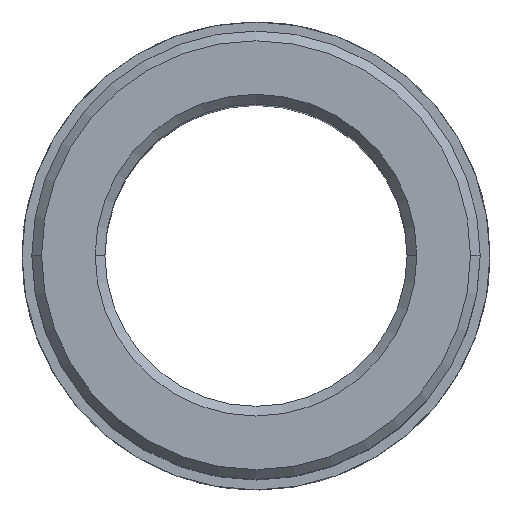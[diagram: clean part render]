
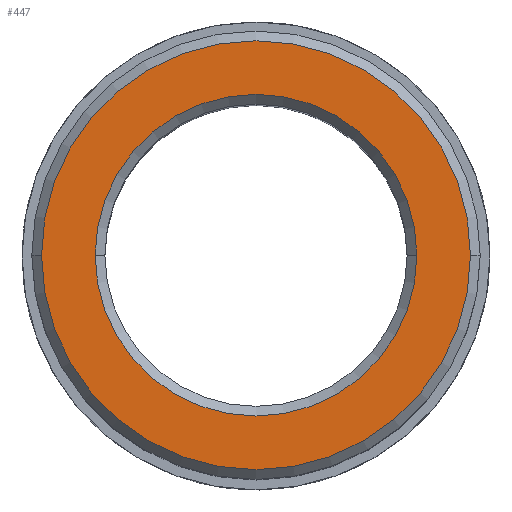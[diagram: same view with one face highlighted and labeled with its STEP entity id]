
A CAD part, top view. The second image highlights one B-rep face of the part: STEP entity #447.
In plain terms, the highlighted planar face has unit normal (0, 0, 1).
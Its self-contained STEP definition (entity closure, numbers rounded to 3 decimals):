
#329=CARTESIAN_POINT('Axis2P3D Location',(0.,0.,50.)) ;
#333=CARTESIAN_POINT('Vertex',(16.5,0.,50.)) ;
#335=CARTESIAN_POINT('Vertex',(-16.5,0.,50.)) ;
#408=CARTESIAN_POINT('Axis2P3D Location',(0.,0.,50.)) ;
#420=CARTESIAN_POINT('Axis2P3D Location',(16.5,0.,50.)) ;
#425=CARTESIAN_POINT('Axis2P3D Location',(0.,0.,50.)) ;
#429=CARTESIAN_POINT('Vertex',(22.,0.,50.)) ;
#431=CARTESIAN_POINT('Vertex',(-22.,0.,50.)) ;
#434=CARTESIAN_POINT('Axis2P3D Location',(0.,0.,50.)) ;
#330=DIRECTION('Axis2P3D Direction',(0.,-0.,1.)) ;
#409=DIRECTION('Axis2P3D Direction',(0.,-0.,1.)) ;
#421=DIRECTION('Axis2P3D Direction',(0.,-0.,1.)) ;
#422=DIRECTION('Axis2P3D XDirection',(1.,0.,0.)) ;
#426=DIRECTION('Axis2P3D Direction',(0.,-0.,1.)) ;
#435=DIRECTION('Axis2P3D Direction',(0.,-0.,1.)) ;
#331=AXIS2_PLACEMENT_3D('Circle Axis2P3D',#329,#330,$) ;
#410=AXIS2_PLACEMENT_3D('Circle Axis2P3D',#408,#409,$) ;
#423=AXIS2_PLACEMENT_3D('Plane Axis2P3D',#420,#421,#422) ;
#427=AXIS2_PLACEMENT_3D('Circle Axis2P3D',#425,#426,$) ;
#436=AXIS2_PLACEMENT_3D('Circle Axis2P3D',#434,#435,$) ;
#440=ORIENTED_EDGE('',*,*,#433,.T.) ;
#441=ORIENTED_EDGE('',*,*,#438,.T.) ;
#444=ORIENTED_EDGE('',*,*,#412,.F.) ;
#445=ORIENTED_EDGE('',*,*,#337,.F.) ;
#446=FACE_BOUND('',#443,.T.) ;
#447=ADVANCED_FACE('734-25',(#442,#446),#424,.T.) ;
#332=CIRCLE('generated circle',#331,16.5) ;
#411=CIRCLE('generated circle',#410,16.5) ;
#428=CIRCLE('generated circle',#427,22.) ;
#437=CIRCLE('generated circle',#436,22.) ;
#337=EDGE_CURVE('',#334,#336,#332,.T.) ;
#412=EDGE_CURVE('',#336,#334,#411,.T.) ;
#433=EDGE_CURVE('',#430,#432,#428,.T.) ;
#438=EDGE_CURVE('',#432,#430,#437,.T.) ;
#439=EDGE_LOOP('',(#440,#441)) ;
#443=EDGE_LOOP('',(#444,#445)) ;
#442=FACE_OUTER_BOUND('',#439,.T.) ;
#424=PLANE('Plane',#423) ;
#334=VERTEX_POINT('',#333) ;
#336=VERTEX_POINT('',#335) ;
#430=VERTEX_POINT('',#429) ;
#432=VERTEX_POINT('',#431) ;
